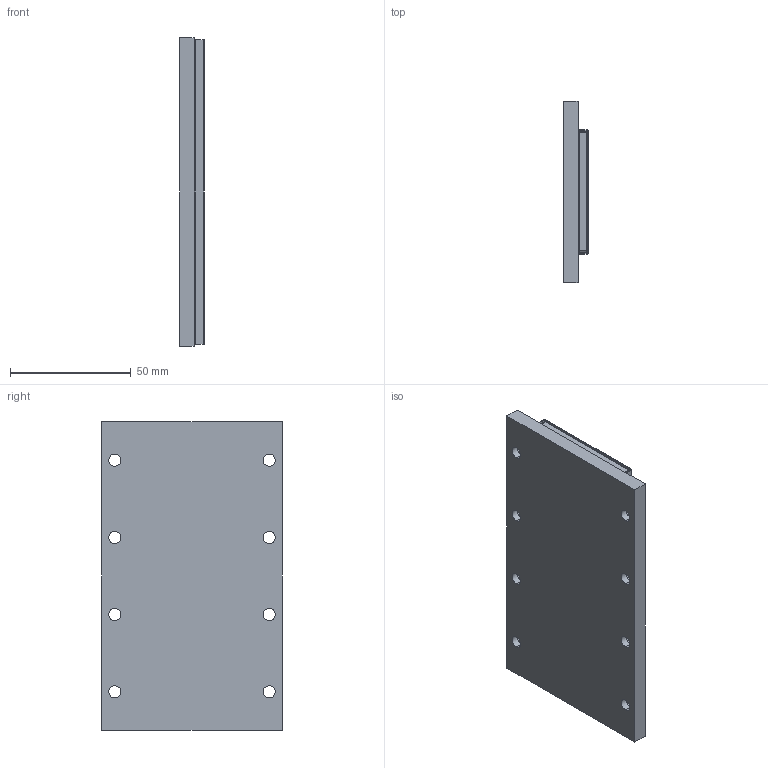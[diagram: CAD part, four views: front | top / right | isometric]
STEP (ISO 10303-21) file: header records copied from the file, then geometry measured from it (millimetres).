
FILE_DESCRIPTION (( 'STEP AP214' ), '1' );
FILE_NAME ('PIXM050-TL128-C.STEP', '2019-03-08T10:33:21', ( '' ), ( '' ), 'SwSTEP 2.0', 'SolidWorks 2016', '' );
FILE_SCHEMA (( 'AUTOMOTIVE_DESIGN' ));
Length unit declared in the file: millimetre
Products named in the file (4): 001SM050LXXX02_TL128; 001SM050000001-CUSTOMER_TL128; 001SM050LXXX01_TL128; PIXM050-TL128-C
Assembly tree (3 placements, depth 2):
  PIXM050-TL128-C
    001SM050LXXX01_TL128
    001SM050000001-CUSTOMER_TL128
    001SM050LXXX02_TL128
Bounding box: 10.3 x 75 x 128 mm (x, y, z)
Volume: 83021.7 mm3; surface area: 50879.4 mm2
Topology: 3 solids, 3 shells, 105 faces, 238 edges, 140 vertices
Faces by surface type: plane 49, cylinder 48, sphere 8
Entity records: 3046 total; most frequent: DIRECTION 548, CARTESIAN_POINT 481, ORIENTED_EDGE 460, EDGE_CURVE 230, AXIS2_PLACEMENT_3D 207, VERTEX_POINT 140, VECTOR 134, LINE 134
